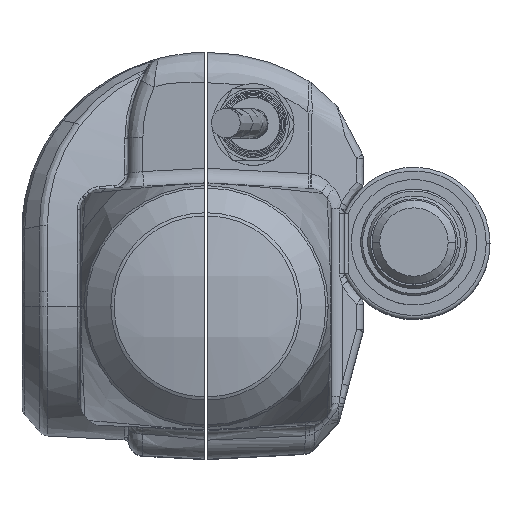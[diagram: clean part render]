
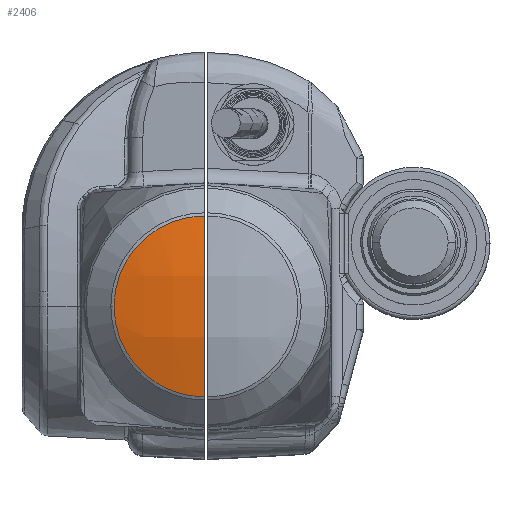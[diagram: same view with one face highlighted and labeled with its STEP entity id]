
A CAD part, top view. The second image highlights one B-rep face of the part: STEP entity #2406.
In plain terms, the highlighted free-form (B-spline) face has degree [3, 3] with [4, 4] control points.
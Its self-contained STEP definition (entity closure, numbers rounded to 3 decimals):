
#1973 = EDGE_LOOP ( 'NONE', ( #2872, #2874, #2873 ) ) ;
#2055 = VERTEX_POINT ( 'NONE', #9252 ) ;
#2056 = VERTEX_POINT ( 'NONE', #9253 ) ;
#2134 = VERTEX_POINT ( 'NONE', #9331 ) ;
#2221 = EDGE_CURVE ( 'NONE', #2056, #2055, #5419, .T. ) ;
#2342 = EDGE_CURVE ( 'NONE', #2055, #2134, #5450, .T. ) ;
#2343 = EDGE_CURVE ( 'NONE', #2134, #2056, #9835, .T. ) ;
#2406 = ADVANCED_FACE ( 'NONE', ( #17230 ), #12175, .T. ) ;
#2872 = ORIENTED_EDGE ( 'NONE', *, *, #2221, .T. ) ;
#2873 = ORIENTED_EDGE ( 'NONE', *, *, #2343, .T. ) ;
#2874 = ORIENTED_EDGE ( 'NONE', *, *, #2342, .T. ) ;
#5419 = CIRCLE ( 'NONE', #17105, 23.789 ) ;
#5450 = CIRCLE ( 'NONE', #17153, 23.789 ) ;
#9252 = CARTESIAN_POINT ( 'NONE',  ( -78.889, 383.21, 139.991 ) ) ;
#9253 = CARTESIAN_POINT ( 'NONE',  ( -55.1, 406.999, 139.991 ) ) ;
#9331 = CARTESIAN_POINT ( 'NONE',  ( -55.1, 359.421, 139.991 ) ) ;
#9702 = CARTESIAN_POINT ( 'NONE',  ( -55.1, 383.21, 139.991 ) ) ;
#9703 = DIRECTION ( 'NONE',  ( 0., 0., 1. ) ) ;
#9704 = DIRECTION ( 'NONE',  ( -1., 0., 0. ) ) ;
#9835 = B_SPLINE_CURVE_WITH_KNOTS ( 'NONE', 3,
 ( #11327, #11328, #11329, #11330, #11331, #11332, #11333, #11334, #11335, #11336, #11337, #11338, #11339, #11340 ),
 .UNSPECIFIED., .F., .F.,
 ( 4, 2, 2, 2, 2, 2, 4 ),
 ( 0., 0.012, 0.024, 0.03, 0.033, 0.036, 0.048 ),
 .UNSPECIFIED. ) ;
#11324 = CARTESIAN_POINT ( 'NONE',  ( -55.1, 383.21, 139.991 ) ) ;
#11325 = DIRECTION ( 'NONE',  ( 0., 0., 1. ) ) ;
#11326 = DIRECTION ( 'NONE',  ( -1., 0., 0. ) ) ;
#11327 = CARTESIAN_POINT ( 'NONE',  ( -55.1, 359.421, 139.991 ) ) ;
#11328 = CARTESIAN_POINT ( 'NONE',  ( -55.1, 363.33, 140.996 ) ) ;
#11329 = CARTESIAN_POINT ( 'NONE',  ( -55.1, 367.26, 141.743 ) ) ;
#11330 = CARTESIAN_POINT ( 'NONE',  ( -55.1, 375.161, 142.744 ) ) ;
#11331 = CARTESIAN_POINT ( 'NONE',  ( -55.1, 379.132, 142.996 ) ) ;
#11332 = CARTESIAN_POINT ( 'NONE',  ( -55.1, 385.12, 143.002 ) ) ;
#11333 = CARTESIAN_POINT ( 'NONE',  ( -55.1, 387.121, 142.941 ) ) ;
#11334 = CARTESIAN_POINT ( 'NONE',  ( -55.1, 390.131, 142.754 ) ) ;
#11335 = CARTESIAN_POINT ( 'NONE',  ( -55.1, 391.137, 142.676 ) ) ;
#11336 = CARTESIAN_POINT ( 'NONE',  ( -55.1, 393.145, 142.487 ) ) ;
#11337 = CARTESIAN_POINT ( 'NONE',  ( -55.1, 394.146, 142.377 ) ) ;
#11338 = CARTESIAN_POINT ( 'NONE',  ( -55.1, 399.139, 141.749 ) ) ;
#11339 = CARTESIAN_POINT ( 'NONE',  ( -55.1, 403.09, 140.996 ) ) ;
#11340 = CARTESIAN_POINT ( 'NONE',  ( -55.1, 406.999, 139.991 ) ) ;
#12175 =( BOUNDED_SURFACE ( )  B_SPLINE_SURFACE ( 3, 3, ( 
 ( #12514, #12515, #12516, #12517 ),
 ( #12518, #12519, #12520, #12521 ),
 ( #12522, #12523, #12524, #12525 ),
 ( #12526, #12527, #12528, #12529 ) ),
 .UNSPECIFIED., .F., .F., .F. ) 
 B_SPLINE_SURFACE_WITH_KNOTS ( ( 4, 4 ),
 ( 4, 4 ),
 ( 0., 1. ),
 ( 0., 1. ),
 .UNSPECIFIED. ) 
 GEOMETRIC_REPRESENTATION_ITEM ( )  RATIONAL_B_SPLINE_SURFACE ( (
 ( 1., 0.995, 0.995, 1.),
 ( 0.978, 0.973, 0.973, 0.978),
 ( 0.978, 0.973, 0.973, 0.978),
 ( 1., 0.995, 0.995, 1.) ) ) 
 REPRESENTATION_ITEM ( '' )  SURFACE ( )  );
#12514 = CARTESIAN_POINT ( 'NONE',  ( -78.331, 407.278, 136.952 ) ) ;
#12515 = CARTESIAN_POINT ( 'NONE',  ( -70.734, 407.278, 138.924 ) ) ;
#12516 = CARTESIAN_POINT ( 'NONE',  ( -62.949, 407.278, 139.918 ) ) ;
#12517 = CARTESIAN_POINT ( 'NONE',  ( -55.1, 407.278, 139.918 ) ) ;
#12518 = CARTESIAN_POINT ( 'NONE',  ( -79.37, 391.409, 140.951 ) ) ;
#12519 = CARTESIAN_POINT ( 'NONE',  ( -71.433, 391.409, 143.011 ) ) ;
#12520 = CARTESIAN_POINT ( 'NONE',  ( -63.3, 391.409, 144.05 ) ) ;
#12521 = CARTESIAN_POINT ( 'NONE',  ( -55.1, 391.409, 144.05 ) ) ;
#12522 = CARTESIAN_POINT ( 'NONE',  ( -79.37, 375.011, 140.951 ) ) ;
#12523 = CARTESIAN_POINT ( 'NONE',  ( -71.433, 375.011, 143.011 ) ) ;
#12524 = CARTESIAN_POINT ( 'NONE',  ( -63.3, 375.011, 144.05 ) ) ;
#12525 = CARTESIAN_POINT ( 'NONE',  ( -55.1, 375.011, 144.05 ) ) ;
#12526 = CARTESIAN_POINT ( 'NONE',  ( -78.331, 359.142, 136.952 ) ) ;
#12527 = CARTESIAN_POINT ( 'NONE',  ( -70.734, 359.142, 138.924 ) ) ;
#12528 = CARTESIAN_POINT ( 'NONE',  ( -62.949, 359.142, 139.918 ) ) ;
#12529 = CARTESIAN_POINT ( 'NONE',  ( -55.1, 359.142, 139.918 ) ) ;
#17105 = AXIS2_PLACEMENT_3D ( 'NONE', #9702, #9703, #9704 ) ;
#17153 = AXIS2_PLACEMENT_3D ( 'NONE', #11324, #11325, #11326 ) ;
#17230 = FACE_OUTER_BOUND ( 'NONE', #1973, .T. ) ;
